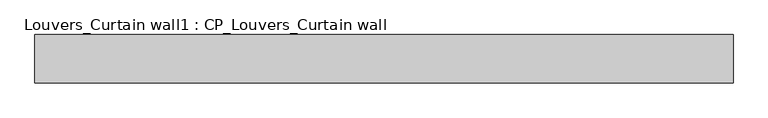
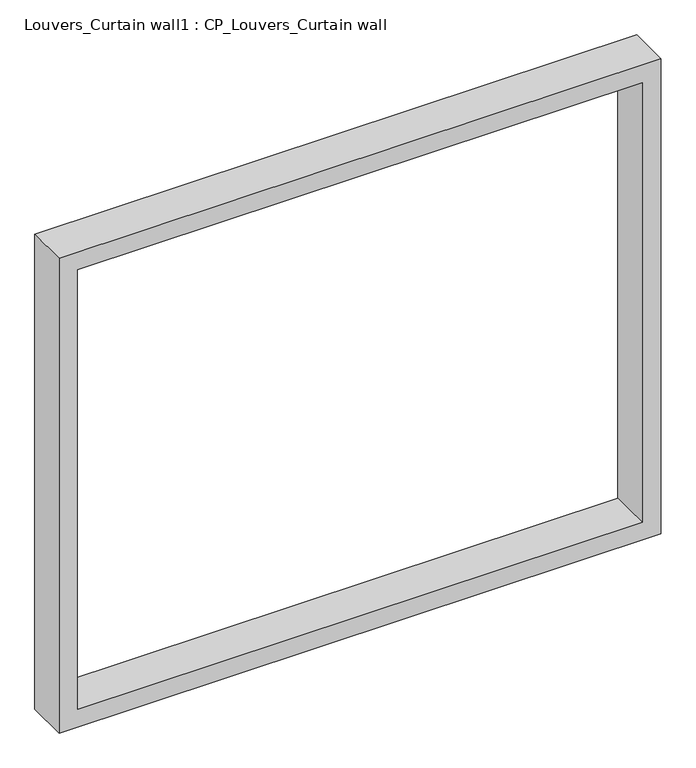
"""IFC4 building model written with IfcOpenShell, lengths in millimetres: plate geometry, Louvers_Curtain wall1 : CP_Louvers_Curtain wall."""

import ifcopenshell
import ifcopenshell.guid

model = None  # the IFC model being written
_history = None  # IfcOwnerHistory: only IFC2X3 demands one
_inside = {}  # id of a spatial element -> (the spatial element, [elements in it])
_under = {}  # id of a project, library or spatial element -> (it, [spatial elements below it])
_declared = {}  # id of a project -> (the project, [libraries it declares])
_typed = {}  # id of a type object -> (the type object, [elements of that type])
_made_of = {}  # id of a material, layer set ... -> (it, [elements and type objects made of it])


def new_model(schema):
    """Start an empty IFC model of exactly this schema.

    Asked for "IFC4X3", IfcOpenShell would pick the latest addendum, in which some entities
    have other attributes; the version numbers below select the first issue.
    IFC2X3 requires an IfcOwnerHistory on every rooted entity: one is made here for all.
    """
    global model, _history
    if schema == "IFC4X3":
        model = ifcopenshell.file(schema_version=(4, 3, 0, 0))
    else:
        model = ifcopenshell.file(schema=schema)
    _inside.clear()
    _under.clear()
    _declared.clear()
    _typed.clear()
    _made_of.clear()
    _history = None
    if model.schema == "IFC2X3":
        org = make("IfcOrganization", Name="unknown")
        user = make(
            "IfcPersonAndOrganization",
            ThePerson=make("IfcPerson", FamilyName="unknown"),
            TheOrganization=org,
        )
        app = make(
            "IfcApplication",
            ApplicationDeveloper=org,
            Version="unknown",
            ApplicationFullName="unknown",
            ApplicationIdentifier="unknown",
        )
        _history = make(
            "IfcOwnerHistory",
            OwningUser=user,
            OwningApplication=app,
            ChangeAction="ADDED",
            CreationDate=0,
        )
    return model


def make(cls, **values):
    """One entity of the class cls with the attributes given. An attribute that is None is left unset."""
    return model.create_entity(
        cls, **{name: value for name, value in values.items() if value is not None}
    )


def rooted(cls, **values):
    """An entity with a GlobalId (a new one), such as an element, a storey or a relation."""
    return make(cls, GlobalId=ifcopenshell.guid.new(), OwnerHistory=_history, **values)


def si_unit(unit_type, name, prefix=None):
    """IfcSIUnit, for example si_unit("LENGTHUNIT", "METRE", prefix="MILLI")."""
    return make("IfcSIUnit", UnitType=unit_type, Prefix=prefix, Name=name)


def assignment(units):
    """IfcUnitAssignment: the units of a project."""
    return None if units is None else make("IfcUnitAssignment", Units=units)


def point(xyz):
    """IfcCartesianPoint."""
    return None if xyz is None else make("IfcCartesianPoint", Coordinates=xyz)


def direction(xyz):
    """IfcDirection."""
    return None if xyz is None else make("IfcDirection", DirectionRatios=xyz)


def frame(location, z_axis=None, x_axis=None):
    """IfcAxis2Placement3D, a coordinate frame: its origin and axes. An axis left out is left unset."""
    return make(
        "IfcAxis2Placement3D",
        Location=point(location),
        Axis=direction(z_axis),
        RefDirection=direction(x_axis),
    )


def origin():
    """The frame at (0, 0, 0) with its axes left unset."""
    return frame((0.0, 0.0, 0.0))


def place(relative_to, where):
    """IfcLocalPlacement: puts the frame where relative to a parent placement (None: the world)."""
    return make(
        "IfcLocalPlacement", PlacementRelTo=relative_to, RelativePlacement=where
    )


def context(
    kind, dimensions, precision=None, world=None, true_north=None, identifier=None
):
    """IfcGeometricRepresentationContext, for example the 3D "Model" context."""
    return make(
        "IfcGeometricRepresentationContext",
        ContextIdentifier=identifier,
        ContextType=kind,
        CoordinateSpaceDimension=dimensions,
        Precision=precision,
        WorldCoordinateSystem=world,
        TrueNorth=true_north,
    )


def project(units=None, contexts=None):
    """IfcProject with its units and contexts."""
    return rooted(
        "IfcProject",
        Name="project",
        RepresentationContexts=contexts,
        UnitsInContext=assignment(units),
    )


def spatial(cls, under=None, at=None, **own):
    """A site, building, storey or space (cls), placed at a placement, below another one or the project."""
    s = rooted(cls, ObjectPlacement=at, **own)
    if under is not None:
        _under.setdefault(under.id(), (under, []))[1].append(s)
    return s


def polyline(points):
    """IfcPolyline through the points."""
    return make("IfcPolyline", Points=[point(p) for p in points])


def outline(outer, holes=None, kind="AREA"):
    """IfcArbitraryClosedProfileDef: a profile drawn as a closed curve; with holes, ...WithVoids."""
    if holes is None:
        return make("IfcArbitraryClosedProfileDef", ProfileType=kind, OuterCurve=outer)
    return make(
        "IfcArbitraryProfileDefWithVoids",
        ProfileType=kind,
        OuterCurve=outer,
        InnerCurves=holes,
    )


def extrude(swept, where, along, depth):
    """IfcExtrudedAreaSolid: the profile swept, set in the frame where, extruded along a direction by depth."""
    return make(
        "IfcExtrudedAreaSolid",
        SweptArea=swept,
        Position=where,
        ExtrudedDirection=direction(along),
        Depth=depth,
    )


def shape(context_of_items, identifier, shape_type, items):
    """IfcShapeRepresentation: the items that make up one representation, for example the "Body"."""
    return make(
        "IfcShapeRepresentation",
        ContextOfItems=context_of_items,
        RepresentationIdentifier=identifier,
        RepresentationType=shape_type,
        Items=items,
    )


def source(mapping_origin, context_of_items, identifier, shape_type, items):
    """IfcRepresentationMap: a shape defined once, which mapped items show again and again."""
    return make(
        "IfcRepresentationMap",
        MappingOrigin=mapping_origin,
        MappedRepresentation=shape(context_of_items, identifier, shape_type, items),
    )


def transform(
    local_origin,
    x_axis=None,
    y_axis=None,
    z_axis=None,
    scale=None,
    scale2=None,
    scale3=None,
    uniform=True,
):
    """IfcCartesianTransformationOperator3D, or its non-uniform kind. x_axis, y_axis, z_axis: its Axis1, 2, 3."""
    if uniform:
        return make(
            "IfcCartesianTransformationOperator3D",
            Axis1=direction(x_axis),
            Axis2=direction(y_axis),
            LocalOrigin=point(local_origin),
            Scale=scale,
            Axis3=direction(z_axis),
        )
    return make(
        "IfcCartesianTransformationOperator3DnonUniform",
        Axis1=direction(x_axis),
        Axis2=direction(y_axis),
        LocalOrigin=point(local_origin),
        Scale=scale,
        Axis3=direction(z_axis),
        Scale2=scale2,
        Scale3=scale3,
    )


def mapped(mapping_source, mapping_target):
    """IfcMappedItem: shows the shape of a source again, moved by a transform."""
    return make(
        "IfcMappedItem", MappingSource=mapping_source, MappingTarget=mapping_target
    )


def made_of(thing, what):
    """Note that an element or type object is made of a material, layer set ...; save() writes the relation."""
    if what is not None:
        _made_of.setdefault(what.id(), (what, []))[1].append(thing)
    return thing


def element(
    cls,
    number,
    at=None,
    inside=None,
    cuts=None,
    type_object=None,
    material=None,
    context=None,
    identifier="Body",
    shape_type=None,
    held_by="IfcProductDefinitionShape",
    body=None,
    shapes=None,
    **own,
):
    """One element of the class cls, such as IfcWall. Its Tag is "e" and its number.

    at: its placement. inside: the storey or other place that contains it. cuts: it is an
    opening in that element (IfcRelVoidsElement). A single representation is given by context,
    identifier, shape_type and body (its items); several are given by shapes. held_by: the class
    of the entity that holds the representations. save() writes the other relations.
    """
    e = rooted(cls, Tag="e%d" % number, ObjectPlacement=at, **own)
    if body is not None:
        shapes = [shape(context, identifier, shape_type, body)]
    if shapes is not None:
        e.Representation = make(held_by, Representations=shapes)
    if inside is not None:
        _inside.setdefault(inside.id(), (inside, []))[1].append(e)
    if cuts is not None:
        rooted(
            "IfcRelVoidsElement", RelatingBuildingElement=cuts, RelatedOpeningElement=e
        )
    if type_object is not None:
        _typed.setdefault(type_object.id(), (type_object, []))[1].append(e)
    return made_of(e, material)


def aggregate(whole, parts):
    """IfcRelAggregates: a whole, such as a stair, and the parts it consists of."""
    return rooted("IfcRelAggregates", RelatingObject=whole, RelatedObjects=parts)


def save(model, path):
    """Write the relations noted so far, then the file.

    IfcRelAggregates (storeys below a building ...), IfcRelContainedInSpatialStructure (elements
    in a storey), IfcRelDefinesByType, IfcRelAssociatesMaterial and IfcRelDeclares: one each for
    every whole, place, type object, material and project.
    """
    for whole, parts in _under.values():
        aggregate(whole, parts)
    for where, things in _inside.values():
        rooted(
            "IfcRelContainedInSpatialStructure",
            RelatedElements=things,
            RelatingStructure=where,
        )
    for kind, things in _typed.values():
        rooted("IfcRelDefinesByType", RelatedObjects=things, RelatingType=kind)
    for what, things in _made_of.values():
        rooted("IfcRelAssociatesMaterial", RelatedObjects=things, RelatingMaterial=what)
    for by, libraries in _declared.values():
        rooted("IfcRelDeclares", RelatingContext=by, RelatedDefinitions=libraries)
    model.write(path)


def louvers_curtain_wall1_cp_louvers_curtain_wall_f258214d(model_context):
    return source(origin(), model_context, "Body", "SweptSolid", [
        extrude(outline(polyline([(0.0, 914.4), (1524.0, 914.4), (1524.0, -914.4), (0.0, -914.4), (0.0, 914.4)]), holes=[polyline([(57.15, -857.25), (1466.85, -857.25), (1466.85, 857.25), (57.15, 857.25), (57.15, -857.25)])]), frame((0.0, -63.5, 0.0), z_axis=(0.0, 1.0, 0.0), x_axis=(0.0, 0.0, 1.0)), (0.0, 0.0, 1.0), 127.0),
    ])


if __name__ == "__main__":
    model = new_model("IFC4")
    model_context = context("Model", 3, world=origin())
    ifc_project = project(units=[si_unit("LENGTHUNIT", "METRE", prefix="MILLI")], contexts=[model_context])
    site = spatial("IfcSite", under=ifc_project)
    building = spatial("IfcBuilding", under=site)
    placement = place(None, origin())
    louvers_curtain_wall1_cp_louvers_curtain_wall_shape = louvers_curtain_wall1_cp_louvers_curtain_wall_f258214d(model_context)
    element("IfcPlate", 1, ObjectType="Louvers_Curtain wall1 : CP_Louvers_Curtain wall", at=placement, inside=building, context=model_context, shape_type="MappedRepresentation", body=[
        mapped(louvers_curtain_wall1_cp_louvers_curtain_wall_shape, transform((0.0, 0.0, 0.0), x_axis=(1.0, 0.0, 0.0), y_axis=(0.0, 1.0, 0.0), z_axis=(0.0, 0.0, 1.0))),
    ])
    save(model, "model.ifc")
